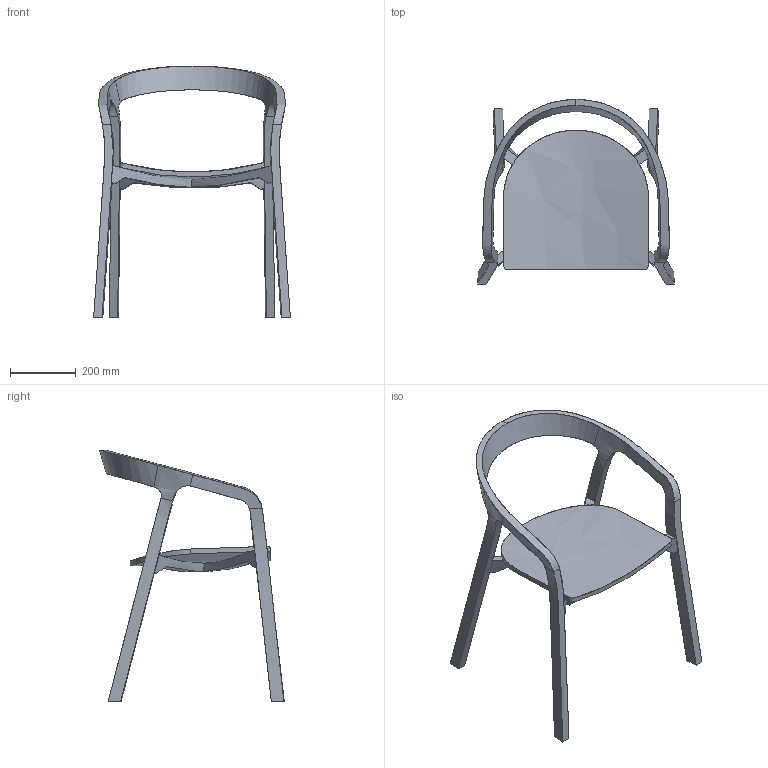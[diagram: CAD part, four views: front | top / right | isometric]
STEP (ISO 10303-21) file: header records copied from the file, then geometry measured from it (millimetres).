
FILE_DESCRIPTION(/* description */ (''),/* implementation_level */ '2;1');
FILE_NAME(/* name */ 'MC01_S~1',/* time_stamp */ '2021-04-08T18:03:50+02:00',/* author */ (''),/* organization */ (''),/* preprocessor_version */ 'ST-DEVELOPER v16.5',/* originating_system */ '',/* authorisation */ '');
FILE_SCHEMA (('AUTOMOTIVE_DESIGN'));
Length unit declared in the file: millimetre
Products named in the file (1): Document
Bounding box: 599.59 x 562.75 x 767.26 mm (x, y, z)
Surface area: 1011181.7 mm2 (no closed solid volume)
Topology: 0 solids, 66 shells, 66 faces, 312 edges, 312 vertices
Faces by surface type: bspline 66
Entity records: 13254 total; most frequent: CARTESIAN_POINT 10275, B_SPLINE_CURVE_WITH_KNOTS 624, ORIENTED_EDGE 312, PCURVE 312, DEFINITIONAL_REPRESENTATION 312, SURFACE_CURVE 312, EDGE_CURVE 312, VERTEX_POINT 312
